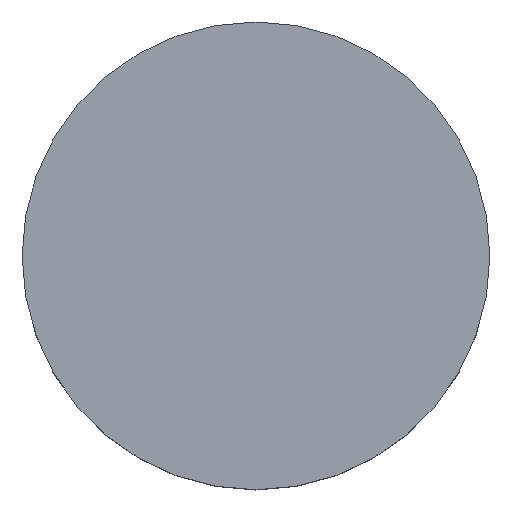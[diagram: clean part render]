
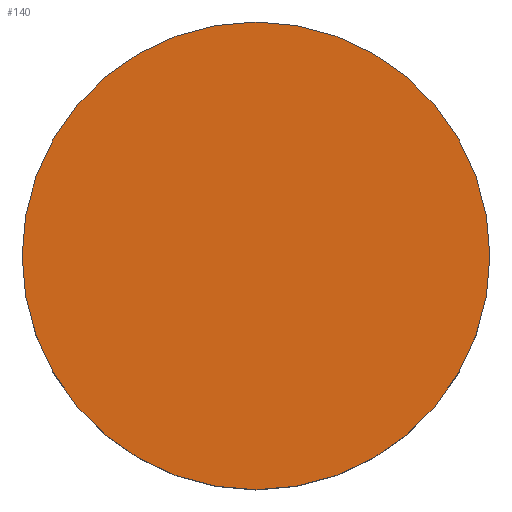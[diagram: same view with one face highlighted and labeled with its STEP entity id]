
A CAD part, top view. The second image highlights one B-rep face of the part: STEP entity #140.
In plain terms, the highlighted planar face has unit normal (0, 0, 1).
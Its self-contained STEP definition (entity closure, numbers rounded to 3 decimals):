
#24 = VERTEX_POINT('',#25);
#25 = CARTESIAN_POINT('',(34.35,-66.,47.7));
#32 = CYLINDRICAL_SURFACE('',#33,2.85);
#33 = AXIS2_PLACEMENT_3D('',#34,#35,#36);
#34 = CARTESIAN_POINT('',(31.5,-66.,46.));
#35 = DIRECTION('',(-0.,-0.,-1.));
#36 = DIRECTION('',(1.,0.,0.));
#51 = EDGE_CURVE('',#24,#24,#52,.T.);
#52 = SURFACE_CURVE('',#53,(#58,#65),.PCURVE_S1.);
#53 = CIRCLE('',#54,2.85);
#54 = AXIS2_PLACEMENT_3D('',#55,#56,#57);
#55 = CARTESIAN_POINT('',(31.5,-66.,47.7));
#56 = DIRECTION('',(0.,0.,1.));
#57 = DIRECTION('',(1.,0.,0.));
#58 = PCURVE('',#32,#59);
#59 = DEFINITIONAL_REPRESENTATION('',(#60),#64);
#60 = LINE('',#61,#62);
#61 = CARTESIAN_POINT('',(-0.,-1.7));
#62 = VECTOR('',#63,1.);
#63 = DIRECTION('',(-1.,0.));
#64 = ( GEOMETRIC_REPRESENTATION_CONTEXT(2) 
PARAMETRIC_REPRESENTATION_CONTEXT() REPRESENTATION_CONTEXT('2D SPACE',''
  ) );
#65 = PCURVE('',#66,#71);
#66 = PLANE('',#67);
#67 = AXIS2_PLACEMENT_3D('',#68,#69,#70);
#68 = CARTESIAN_POINT('',(31.5,-66.,47.7));
#69 = DIRECTION('',(0.,0.,1.));
#70 = DIRECTION('',(1.,0.,-0.));
#71 = DEFINITIONAL_REPRESENTATION('',(#72),#76);
#72 = CIRCLE('',#73,2.85);
#73 = AXIS2_PLACEMENT_2D('',#74,#75);
#74 = CARTESIAN_POINT('',(0.,0.));
#75 = DIRECTION('',(1.,0.));
#76 = ( GEOMETRIC_REPRESENTATION_CONTEXT(2) 
PARAMETRIC_REPRESENTATION_CONTEXT() REPRESENTATION_CONTEXT('2D SPACE',''
  ) );
#140 = ADVANCED_FACE('',(#141),#66,.T.);
#141 = FACE_BOUND('',#142,.T.);
#142 = EDGE_LOOP('',(#143));
#143 = ORIENTED_EDGE('',*,*,#51,.T.);
